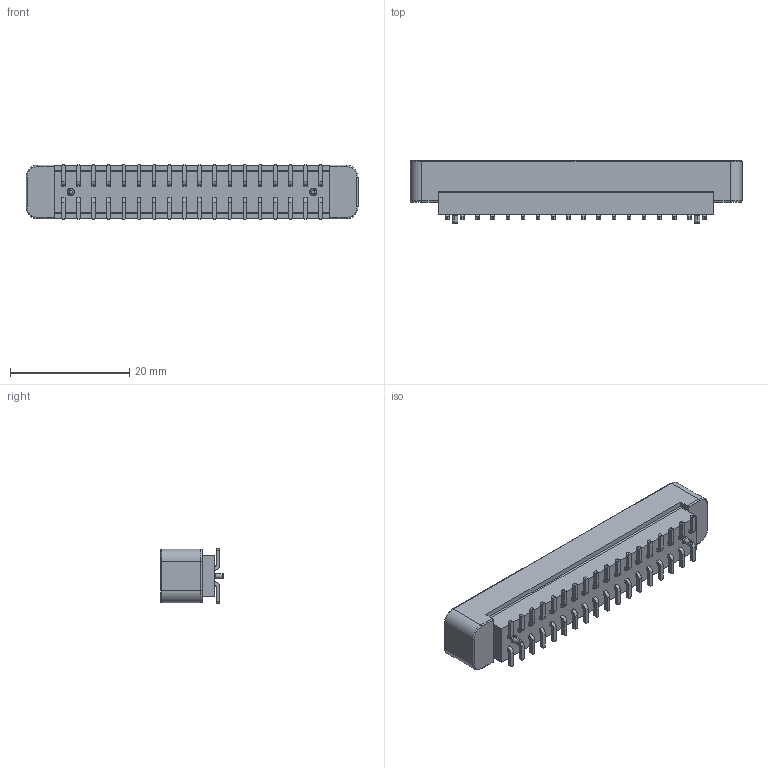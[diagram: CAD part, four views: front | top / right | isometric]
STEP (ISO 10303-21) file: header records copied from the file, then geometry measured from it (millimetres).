
FILE_DESCRIPTION (( 'STEP AP203' ), '1' );
FILE_NAME ('HC-PBB254A-1-36-M-H9.9-XX-P-04 (2.54 单槽 公座 立贴 带柱-HCTL).STEP', '2026-03-12T09:17:53', ( '' ), ( '' ), 'SwSTEP 2.0', 'SolidWorks 2025', '' );
FILE_SCHEMA (( 'CONFIG_CONTROL_DESIGN' ));
Length unit declared in the file: millimetre
Products named in the file (1): HC-PBB254A-1-36-M-H9.9-XX-P-04 (2.54 单槽 公座 立贴 带柱-HCTL)
Bounding box: 55.72 x 10.5 x 9.1 mm (x, y, z)
Volume: 2861.1 mm3; surface area: 4251.1 mm2
Topology: 1 solids, 1 shells, 1082 faces, 3024 edges, 1984 vertices
Faces by surface type: plane 788, cylinder 268, torus 16, bspline 10
Entity records: 34696 total; most frequent: CARTESIAN_POINT 6698, ORIENTED_EDGE 6048, DIRECTION 5548, EDGE_CURVE 3024, VECTOR 2426, LINE 2426, VERTEX_POINT 1984, AXIS2_PLACEMENT_3D 1561
